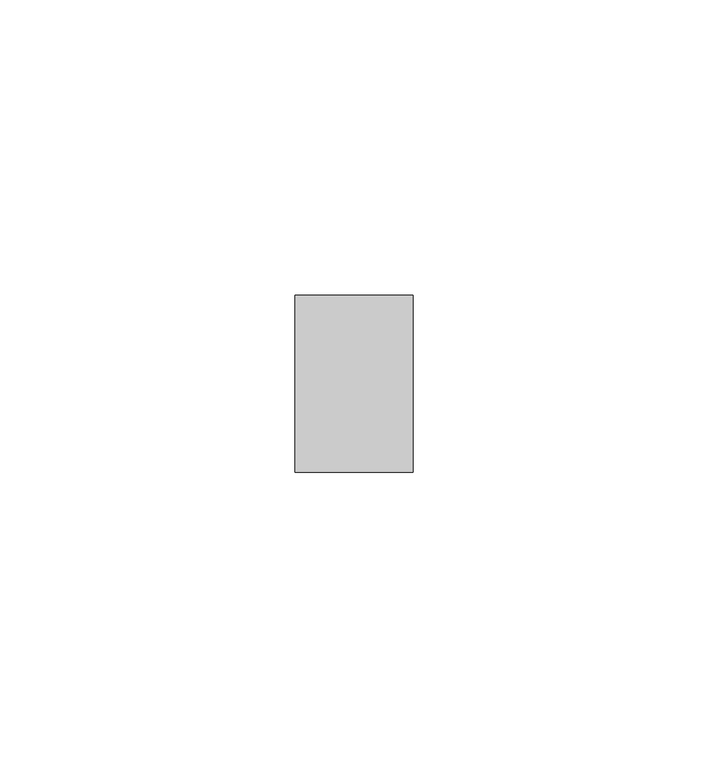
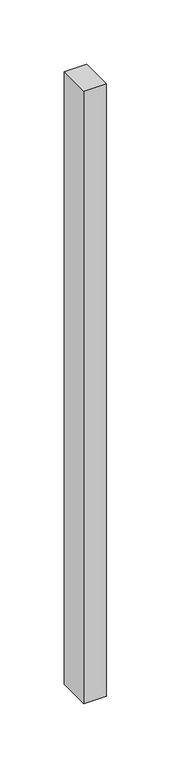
"""IFC4 building model written with IfcOpenShell, lengths in millimetres: member geometry, Прямоугольный импост : Квадрат 10 мм - Зазор между навесными плитами."""

from ifc_helpers import new_model, si_unit, frame, origin, place, context, project, spatial, polyline, outline, extrude, source, transform, mapped, element, save


def member_b5ba3f6d(model_context):
    return source(origin(), model_context, "Body", "SweptSolid", [
        extrude(outline(polyline([(10.0, 15.0), (10.0, -15.0), (-10.0, -15.0), (-10.0, 15.0), (10.0, 15.0)])), frame((0.0, 0.0, -580.0), z_axis=(0.0, 0.0, 1.0), x_axis=(1.0, 0.0, 0.0)), (0.0, 0.0, 1.0), 580.0),
    ])


if __name__ == "__main__":
    model = new_model("IFC4")
    model_context = context("Model", 3, world=origin())
    ifc_project = project(units=[si_unit("LENGTHUNIT", "METRE", prefix="MILLI")], contexts=[model_context])
    site = spatial("IfcSite", under=ifc_project)
    building = spatial("IfcBuilding", under=site)
    placement = place(None, origin())
    member_shape = member_b5ba3f6d(model_context)
    element("IfcMember", 1, ObjectType="Прямоугольный импост : Квадрат 10 мм - Зазор между навесными плитами", at=placement, inside=building, context=model_context, shape_type="MappedRepresentation", body=[
        mapped(member_shape, transform((0.0, 0.0, 0.0), x_axis=(1.0, 0.0, 0.0), y_axis=(0.0, 1.0, 0.0), z_axis=(0.0, 0.0, 1.0))),
    ])
    save(model, "model.ifc")
